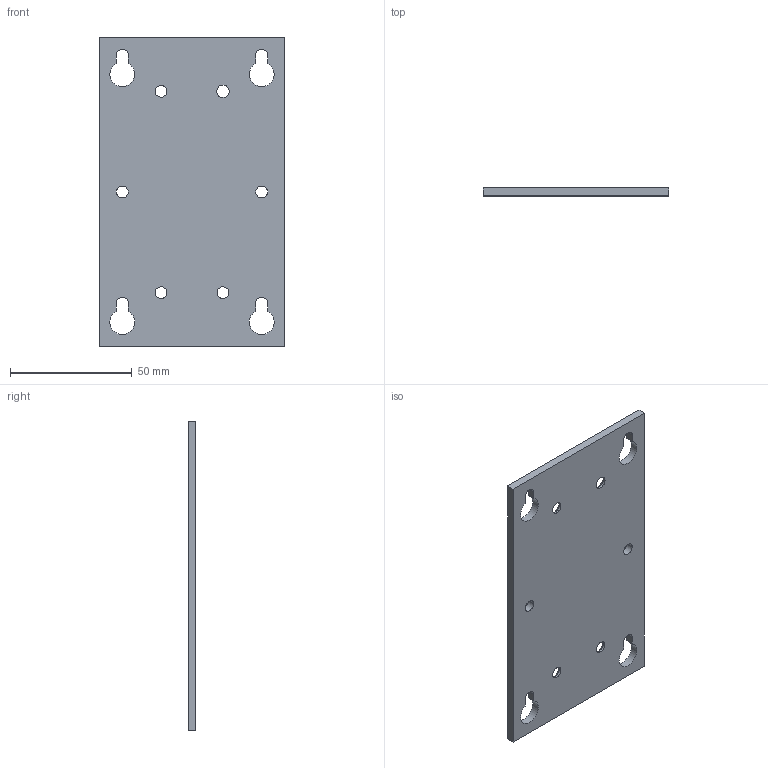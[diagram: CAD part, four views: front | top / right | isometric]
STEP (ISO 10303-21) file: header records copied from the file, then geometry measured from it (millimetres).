
FILE_DESCRIPTION((''),'2;1');
FILE_NAME('CU_CFP_PANEL_MOUNT_HOR','2007-07-16T',('chrisj'),(''),'PRO/ENGINEER BY PARAMETRIC TECHNOLOGY CORPORATION, 2006300','PRO/ENGINEER BY PARAMETRIC TECHNOLOGY CORPORATION, 2006300','');
FILE_SCHEMA(('AUTOMOTIVE_DESIGN_CC2 { 1 2 10303 214 -1 1 5 2 }'));
Length unit declared in the file: inch
Products named in the file (1): CU_CFP_PANEL_MOUNT_HOR
Bounding box: 76.2 x 3.17 x 127 mm (x, y, z)
Volume: 28825 mm3; surface area: 20337.9 mm2
Topology: 1 solids, 1 shells, 42 faces, 112 edges, 72 vertices
Faces by surface type: cylinder 20, plane 14, cone 8
Entity records: 1411 total; most frequent: DIRECTION 244, CARTESIAN_POINT 226, ORIENTED_EDGE 224, EDGE_CURVE 112, AXIS2_PLACEMENT_3D 90, VERTEX_POINT 72, VECTOR 64, LINE 64
